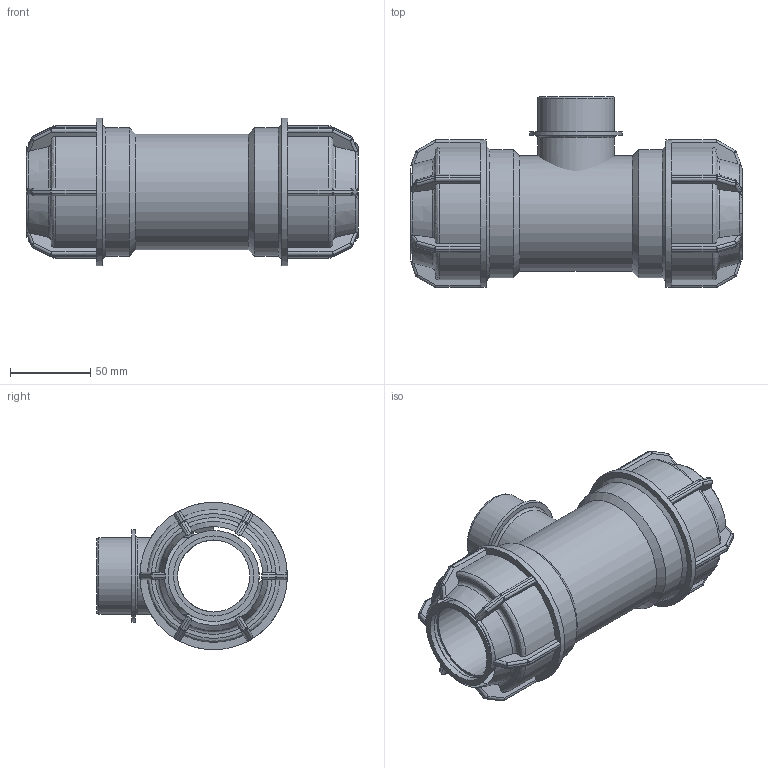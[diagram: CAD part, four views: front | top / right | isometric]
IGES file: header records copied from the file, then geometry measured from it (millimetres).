
Global section: file name: 148400050015.ipt; native system: Autodesk Inventor 2015; preprocessor: unknown; author: KIM; date: 20180409.131236; units: millimetre
Bounding box: 207 x 119 x 92 mm (x, y, z)
Volume: 566649.9 mm3; surface area: 114884.6 mm2
Topology: 2 solids, 2 shells, 413 faces, 992 edges, 580 vertices
Faces by surface type: plane 195, cylinder 116, sphere 48, revolution 38, cone 16
Full cylindrical faces by diameter (mm): 47.803 x2, 57.364 x1, 72 x1, 80 x2, 92 x2
